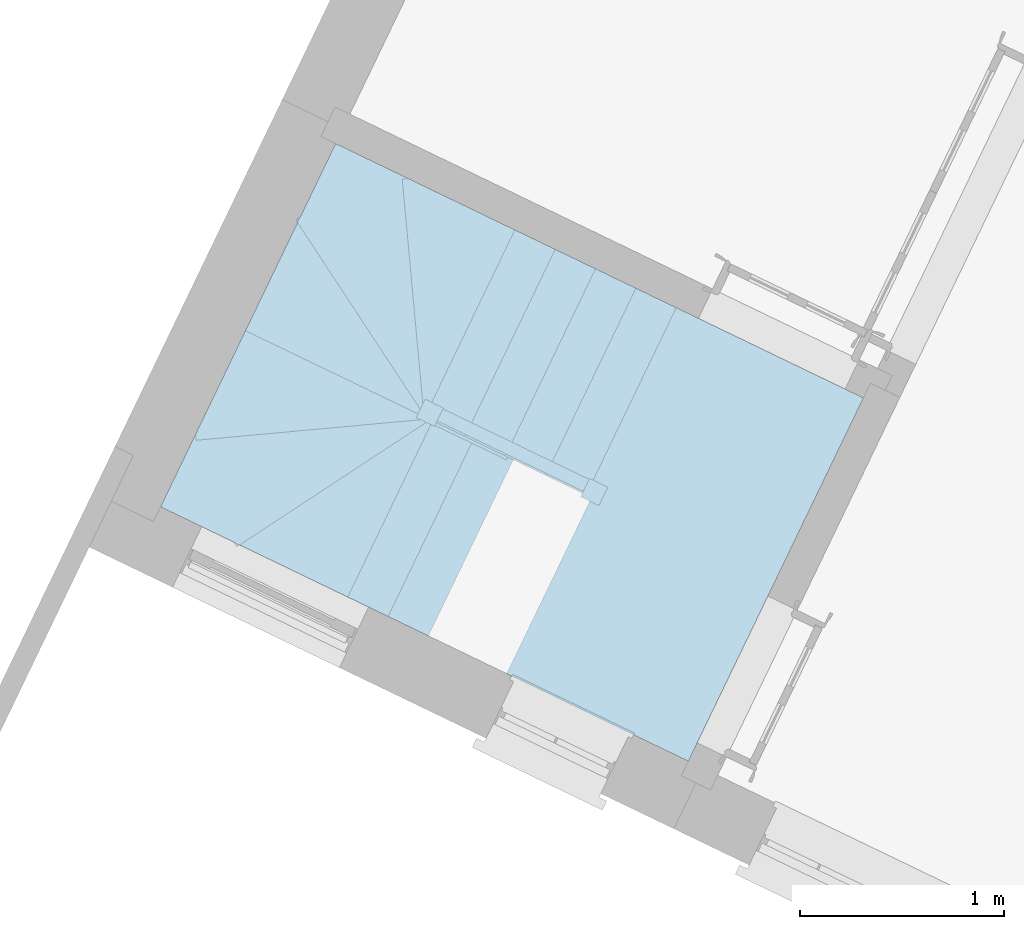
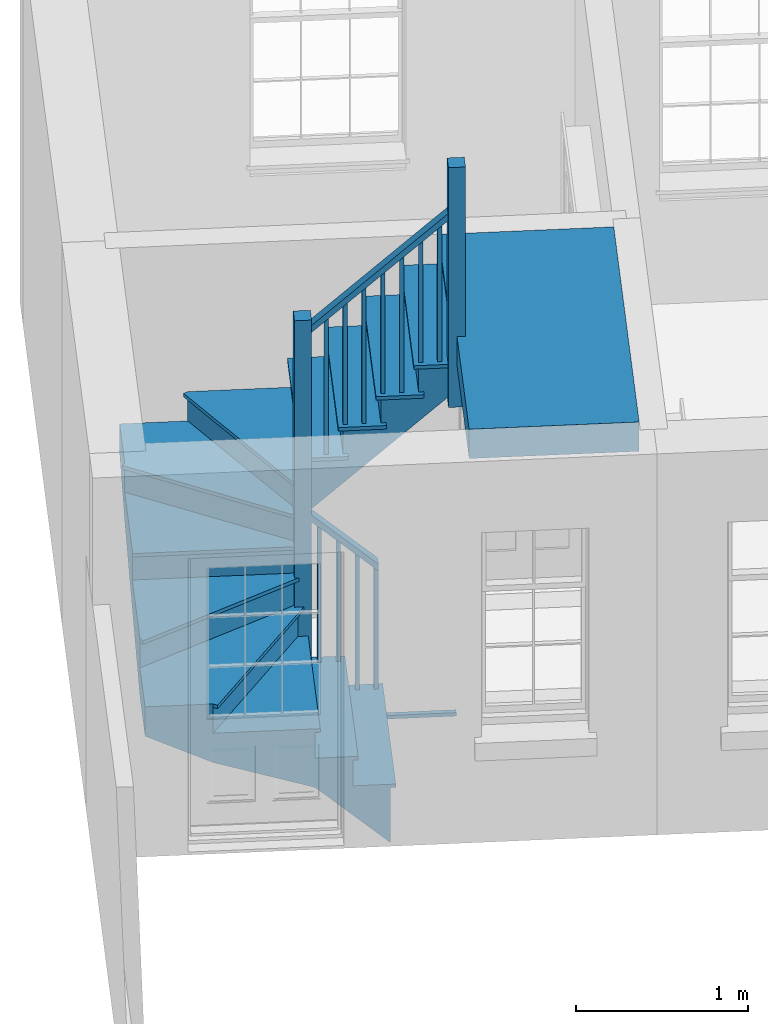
# One storey, part 5 of 5: 1 stair.
"""IFC4 building model written with IfcOpenShell, lengths in metres."""

from ifc_helpers import new_model, si_unit, frame, origin, origin_with_axes, place, context, subcontext, project, spatial, faceted_brep, element, save


model = new_model("IFC4")

# Units and contexts
model_context = context("Model", 3, world=origin_with_axes())
body_context = subcontext(model_context, "Body", "Model", "MODEL_VIEW")
ifc_project = project(units=[si_unit("PLANEANGLEUNIT", "RADIAN"), si_unit("MASSUNIT", "GRAM", prefix="KILO"), si_unit("FORCEUNIT", "NEWTON", prefix="KILO"), si_unit("LENGTHUNIT", "METRE"), si_unit("AREAUNIT", "SQUARE_METRE"), si_unit("VOLUMEUNIT", "CUBIC_METRE")], contexts=[model_context, model_context])

# Sites, building, storey
site_1_placement = place(None, origin_with_axes())
site_1 = spatial("IfcSite", under=ifc_project, at=site_1_placement, Name="Tamar")
site_2_placement = place(site_1_placement, origin_with_axes())
site_2 = spatial("IfcSite", under=site_1, at=site_2_placement, Name="Site plot-2", CompositionType="ELEMENT")
building_placement = place(None, origin_with_axes())
building = spatial("IfcBuilding", under=site_2, at=building_placement, Name="Building plot-2", CompositionType="ELEMENT")
storey_placement = place(None, frame((0.0, 0.0, 26.0), z_axis=(0.0, 0.0, 1.0), x_axis=(1.0, 0.0, 0.0)))
storey = spatial("IfcBuildingStorey", under=building, at=storey_placement, Name="plot-2 0", CompositionType="ELEMENT", Elevation=26.0)

# Stair
stair_placement = place(None, origin())
element("IfcStair", 1, at=stair_placement, inside=storey, Name="Stair", PredefinedType="NOTDEFINED", context=body_context, shape_type="Brep", body=[
    faceted_brep([(229.954053, 291.419393, 28.492308), (230.38407, 292.311741, 28.492308), (230.185881, 292.407247, 28.492308), (229.755864, 291.514899, 28.492308), (229.755864, 291.514899, 28.076923), (230.185881, 292.407247, 28.076923), (230.38407, 292.311741, 28.284615), (229.954053, 291.419393, 28.284615)], [[[0, 1, 2, 3]], [[4, 5, 6, 7]], [[7, 6, 1, 0]], [[1, 6, 5, 2]], [[5, 4, 3, 2]], [[3, 4, 7, 0]]]),
    faceted_brep([(230.158856, 292.420271, 28.467308), (230.158856, 292.420271, 28.492308), (230.185881, 292.407247, 28.467308), (230.411095, 292.298718, 28.492308), (230.411095, 292.298718, 28.467308), (230.38407, 292.311741, 28.467308), (230.185881, 292.407247, 28.492308), (230.38407, 292.311741, 28.492308), (229.715815, 291.500897, 28.492308), (229.755864, 291.514899, 28.492308), (229.755864, 291.514899, 28.467308), (229.715815, 291.500897, 28.467308), (229.968055, 291.379344, 28.492308), (229.954053, 291.419393, 28.492308), (229.954053, 291.419393, 28.467308), (229.968055, 291.379344, 28.467308)], [[[0, 1, 2]], [[3, 4, 5]], [[2, 1, 6]], [[3, 5, 7]], [[6, 1, 8, 9]], [[2, 6, 9, 10]], [[0, 2, 10, 11]], [[1, 0, 11, 8]], [[9, 8, 12, 13]], [[10, 9, 13, 14]], [[11, 10, 14, 15]], [[8, 11, 15, 12]], [[13, 12, 3, 7]], [[14, 13, 7, 5]], [[15, 14, 5, 4]], [[12, 15, 4, 3]]]),
    faceted_brep([(229.755864, 291.514899, 29.392308), (229.778386, 291.504046, 29.392308), (229.789239, 291.526568, 29.392308), (229.766717, 291.537421, 29.392308), (229.766717, 291.537421, 28.492308), (229.789239, 291.526568, 28.492308), (229.778386, 291.504046, 28.492308), (229.755864, 291.514899, 28.492308)], [[[0, 1, 2, 3]], [[4, 5, 6, 7]], [[7, 6, 1, 0]], [[6, 5, 2, 1]], [[5, 4, 3, 2]], [[4, 7, 0, 3]]]),
    faceted_brep([(229.854958, 291.467146, 29.496154), (229.87748, 291.456293, 29.496154), (229.888333, 291.478815, 29.496154), (229.865811, 291.489668, 29.496154), (229.865811, 291.489668, 28.492308), (229.888333, 291.478815, 28.492308), (229.87748, 291.456293, 28.492308), (229.854958, 291.467146, 28.492308)], [[[0, 1, 2, 3]], [[4, 5, 6, 7]], [[7, 6, 1, 0]], [[6, 5, 2, 1]], [[5, 4, 3, 2]], [[4, 7, 0, 3]]]),
    faceted_brep([(229.7754, 291.555438, 29.342308), (229.747182, 291.496882, 29.342308), (229.747182, 291.496882, 29.392308), (229.7754, 291.555438, 29.392308), (229.94537, 291.401376, 29.55), (229.973588, 291.459932, 29.55), (229.973588, 291.459932, 29.6), (229.94537, 291.401376, 29.6)], [[[0, 1, 2, 3]], [[4, 5, 6, 7]], [[0, 5, 4, 1]], [[3, 2, 7, 6]], [[0, 3, 6, 5]], [[2, 1, 4, 7]]]),
    faceted_brep([(229.755864, 291.514899, 28.284615), (230.185881, 292.407247, 28.284615), (229.987693, 292.502753, 28.284615), (229.557676, 291.610405, 28.284615), (229.557676, 291.610405, 27.869231), (229.987693, 292.502753, 27.869231), (230.185881, 292.407247, 28.076923), (229.755864, 291.514899, 28.076923)], [[[0, 1, 2, 3]], [[4, 5, 6, 7]], [[7, 6, 1, 0]], [[1, 6, 5, 2]], [[5, 4, 3, 2]], [[3, 4, 7, 0]]]),
    faceted_brep([(229.987693, 292.502753, 28.259615), (229.960667, 292.515776, 28.259615), (229.987693, 292.502753, 28.284615), (230.212907, 292.394224, 28.259615), (230.185881, 292.407247, 28.259615), (230.185881, 292.407247, 28.284615), (229.960667, 292.515776, 28.284615), (230.212907, 292.394224, 28.284615), (229.517627, 291.596403, 28.284615), (229.557676, 291.610405, 28.284615), (229.557676, 291.610405, 28.259615), (229.517627, 291.596403, 28.259615), (229.769866, 291.47485, 28.284615), (229.755864, 291.514899, 28.284615), (229.755864, 291.514899, 28.259615), (229.769866, 291.47485, 28.259615)], [[[0, 1, 2]], [[3, 4, 5]], [[1, 6, 2]], [[7, 3, 5]], [[2, 6, 8, 9]], [[0, 2, 9, 10]], [[1, 0, 10, 11]], [[6, 1, 11, 8]], [[9, 8, 12, 13]], [[10, 9, 13, 14]], [[11, 10, 14, 15]], [[8, 11, 15, 12]], [[13, 12, 7, 5]], [[14, 13, 5, 4]], [[15, 14, 4, 3]], [[12, 15, 3, 7]]]),
    faceted_brep([(229.557676, 291.610405, 29.184615), (229.580197, 291.599552, 29.184615), (229.59105, 291.622074, 29.184615), (229.568529, 291.632927, 29.184615), (229.568529, 291.632927, 28.284615), (229.59105, 291.622074, 28.284615), (229.580197, 291.599552, 28.284615), (229.557676, 291.610405, 28.284615)], [[[0, 1, 2, 3]], [[4, 5, 6, 7]], [[7, 6, 1, 0]], [[6, 5, 2, 1]], [[5, 4, 3, 2]], [[4, 7, 0, 3]]]),
    faceted_brep([(229.65677, 291.562652, 29.288462), (229.679291, 291.551799, 29.288462), (229.690144, 291.574321, 29.288462), (229.667623, 291.585174, 29.288462), (229.667623, 291.585174, 28.284615), (229.690144, 291.574321, 28.284615), (229.679291, 291.551799, 28.284615), (229.65677, 291.562652, 28.284615)], [[[0, 1, 2, 3]], [[4, 5, 6, 7]], [[7, 6, 1, 0]], [[6, 5, 2, 1]], [[5, 4, 3, 2]], [[4, 7, 0, 3]]]),
    faceted_brep([(229.577211, 291.650944, 29.134615), (229.548993, 291.592388, 29.134615), (229.548993, 291.592388, 29.184615), (229.577211, 291.650944, 29.184615), (229.747182, 291.496882, 29.342308), (229.7754, 291.555438, 29.342308), (229.7754, 291.555438, 29.392308), (229.747182, 291.496882, 29.392308)], [[[0, 1, 2, 3]], [[4, 5, 6, 7]], [[0, 5, 4, 1]], [[3, 2, 7, 6]], [[0, 3, 6, 5]], [[2, 1, 4, 7]]]),
    faceted_brep([(229.557676, 291.610405, 28.076923), (229.987693, 292.502753, 28.076923), (229.789505, 292.598259, 28.076923), (229.359487, 291.705911, 28.076923), (229.359487, 291.705911, 27.661538), (229.789505, 292.598259, 27.661538), (229.987693, 292.502753, 27.869231), (229.557676, 291.610405, 27.869231)], [[[0, 1, 2, 3]], [[4, 5, 6, 7]], [[7, 6, 1, 0]], [[1, 6, 5, 2]], [[5, 4, 3, 2]], [[3, 4, 7, 0]]]),
    faceted_brep([(229.789505, 292.598259, 28.051923), (229.762479, 292.611282, 28.051923), (229.789505, 292.598259, 28.076923), (230.014719, 292.489729, 28.051923), (229.987693, 292.502753, 28.051923), (229.987693, 292.502753, 28.076923), (229.762479, 292.611282, 28.076923), (230.014719, 292.489729, 28.076923), (229.319438, 291.691909, 28.076923), (229.359487, 291.705911, 28.076923), (229.359487, 291.705911, 28.051923), (229.319438, 291.691909, 28.051923), (229.571678, 291.570356, 28.076923), (229.557676, 291.610405, 28.076923), (229.557676, 291.610405, 28.051923), (229.571678, 291.570356, 28.051923)], [[[0, 1, 2]], [[3, 4, 5]], [[1, 6, 2]], [[7, 3, 5]], [[2, 6, 8, 9]], [[0, 2, 9, 10]], [[1, 0, 10, 11]], [[6, 1, 11, 8]], [[9, 8, 12, 13]], [[10, 9, 13, 14]], [[11, 10, 14, 15]], [[8, 11, 15, 12]], [[13, 12, 7, 5]], [[14, 13, 5, 4]], [[15, 14, 4, 3]], [[12, 15, 3, 7]]]),
    faceted_brep([(229.359487, 291.705911, 28.976923), (229.382009, 291.695058, 28.976923), (229.392862, 291.717579, 28.976923), (229.37034, 291.728432, 28.976923), (229.37034, 291.728432, 28.076923), (229.392862, 291.717579, 28.076923), (229.382009, 291.695058, 28.076923), (229.359487, 291.705911, 28.076923)], [[[0, 1, 2, 3]], [[4, 5, 6, 7]], [[7, 6, 1, 0]], [[6, 5, 2, 1]], [[5, 4, 3, 2]], [[4, 7, 0, 3]]]),
    faceted_brep([(229.458582, 291.658158, 29.080769), (229.481103, 291.647305, 29.080769), (229.491956, 291.669827, 29.080769), (229.469435, 291.680679, 29.080769), (229.469435, 291.680679, 28.076923), (229.491956, 291.669827, 28.076923), (229.481103, 291.647305, 28.076923), (229.458582, 291.658158, 28.076923)], [[[0, 1, 2, 3]], [[4, 5, 6, 7]], [[7, 6, 1, 0]], [[6, 5, 2, 1]], [[5, 4, 3, 2]], [[4, 7, 0, 3]]]),
    faceted_brep([(229.379023, 291.746449, 28.926923), (229.350805, 291.687894, 28.926923), (229.350805, 291.687894, 28.976923), (229.379023, 291.746449, 28.976923), (229.548993, 291.592388, 29.134615), (229.577211, 291.650944, 29.134615), (229.577211, 291.650944, 29.184615), (229.548993, 291.592388, 29.184615)], [[[0, 1, 2, 3]], [[4, 5, 6, 7]], [[0, 5, 4, 1]], [[3, 2, 7, 6]], [[0, 3, 6, 5]], [[2, 1, 4, 7]]]),
    faceted_brep([(229.359487, 291.705911, 27.869231), (229.789505, 292.598259, 27.869231), (229.591316, 292.693765, 27.869231), (229.161299, 291.801417, 27.869231), (229.161299, 291.801417, 27.453846), (229.591316, 292.693765, 27.453846), (229.789505, 292.598259, 27.661538), (229.359487, 291.705911, 27.661538)], [[[0, 1, 2, 3]], [[4, 5, 6, 7]], [[7, 6, 1, 0]], [[1, 6, 5, 2]], [[5, 4, 3, 2]], [[3, 4, 7, 0]]]),
    faceted_brep([(229.564291, 292.706788, 27.844231), (229.564291, 292.706788, 27.869231), (229.591316, 292.693765, 27.844231), (229.81653, 292.585235, 27.869231), (229.81653, 292.585235, 27.844231), (229.789505, 292.598259, 27.844231), (229.591316, 292.693765, 27.869231), (229.789505, 292.598259, 27.869231), (229.12125, 291.787415, 27.869231), (229.161299, 291.801417, 27.869231), (229.161299, 291.801417, 27.844231), (229.12125, 291.787415, 27.844231), (229.37349, 291.665862, 27.869231), (229.359487, 291.705911, 27.869231), (229.359487, 291.705911, 27.844231), (229.37349, 291.665862, 27.844231)], [[[0, 1, 2]], [[3, 4, 5]], [[2, 1, 6]], [[3, 5, 7]], [[6, 1, 8, 9]], [[2, 6, 9, 10]], [[0, 2, 10, 11]], [[1, 0, 11, 8]], [[9, 8, 12, 13]], [[10, 9, 13, 14]], [[11, 10, 14, 15]], [[8, 11, 15, 12]], [[13, 12, 3, 7]], [[14, 13, 7, 5]], [[15, 14, 5, 4]], [[12, 15, 4, 3]]]),
    faceted_brep([(229.161299, 291.801417, 28.769231), (229.18382, 291.790564, 28.769231), (229.194673, 291.813085, 28.769231), (229.172152, 291.823938, 28.769231), (229.172152, 291.823938, 27.869231), (229.194673, 291.813085, 27.869231), (229.18382, 291.790564, 27.869231), (229.161299, 291.801417, 27.869231)], [[[0, 1, 2, 3]], [[4, 5, 6, 7]], [[7, 6, 1, 0]], [[6, 5, 2, 1]], [[5, 4, 3, 2]], [[4, 7, 0, 3]]]),
    faceted_brep([(229.260393, 291.753664, 28.873077), (229.282915, 291.742811, 28.873077), (229.293768, 291.765332, 28.873077), (229.271246, 291.776185, 28.873077), (229.271246, 291.776185, 27.869231), (229.293768, 291.765332, 27.869231), (229.282915, 291.742811, 27.869231), (229.260393, 291.753664, 27.869231)], [[[0, 1, 2, 3]], [[4, 5, 6, 7]], [[7, 6, 1, 0]], [[6, 5, 2, 1]], [[5, 4, 3, 2]], [[4, 7, 0, 3]]]),
    faceted_brep([(229.180834, 291.841955, 28.719231), (229.152617, 291.7834, 28.719231), (229.152617, 291.7834, 28.769231), (229.180834, 291.841955, 28.769231), (229.350805, 291.687894, 28.926923), (229.379023, 291.746449, 28.926923), (229.379023, 291.746449, 28.976923), (229.350805, 291.687894, 28.976923)], [[[0, 1, 2, 3]], [[4, 5, 6, 7]], [[0, 5, 4, 1]], [[3, 2, 7, 6]], [[0, 3, 6, 5]], [[2, 1, 4, 7]]]),
    faceted_brep([(229.161299, 291.801417, 27.661538), (229.591316, 292.693765, 27.661538), (229.576412, 292.700947, 27.661538), (229.146395, 291.808599, 27.661538), (229.146395, 291.808599, 27.453846), (229.576412, 292.700947, 27.453846), (229.591316, 292.693765, 27.453846), (229.161299, 291.801417, 27.453846)], [[[0, 1, 2, 3]], [[4, 5, 6, 7]], [[7, 6, 1, 0]], [[6, 5, 2, 1]], [[5, 4, 3, 2]], [[4, 7, 0, 3]]]),
    faceted_brep([(229.146395, 291.808599, 27.636538), (229.133372, 291.781573, 27.636538), (229.146395, 291.808599, 27.661538), (229.148276, 291.774391, 27.636538), (229.161299, 291.801417, 27.636538), (229.161299, 291.801417, 27.661538), (229.133372, 291.781573, 27.661538), (229.148276, 291.774391, 27.661538)], [[[0, 1, 2]], [[3, 4, 5]], [[1, 6, 2]], [[7, 3, 5]], [[2, 6, 7, 5]], [[0, 2, 5, 4]], [[1, 0, 4, 3]], [[6, 1, 3, 7]]]),
    faceted_brep([(229.079646, 291.785262, 28.861538), (229.169732, 291.74185, 28.861538), (229.213144, 291.831936, 28.861538), (229.123058, 291.875348, 28.861538), (229.123058, 291.875348, 27.661538), (229.213144, 291.831936, 27.661538), (229.169732, 291.74185, 27.661538), (229.079646, 291.785262, 27.661538)], [[[0, 1, 2, 3]], [[4, 5, 6, 7]], [[7, 6, 1, 0]], [[6, 5, 2, 1]], [[5, 4, 3, 2]], [[4, 7, 0, 3]]]),
    faceted_brep([(229.576412, 292.700947, 27.661538), (229.041004, 292.958957, 27.661538), (229.146395, 291.808599, 27.661538), (229.146395, 291.808599, 27.246154), (229.041004, 292.958957, 27.246154), (229.576412, 292.700947, 27.453846)], [[[0, 1, 2]], [[3, 4, 5]], [[0, 5, 4, 1]], [[4, 3, 2, 1]], [[2, 3, 5, 0]]]),
    faceted_brep([(229.011129, 292.95622, 27.636538), (229.011129, 292.95622, 27.661538), (229.041004, 292.958957, 27.636538), (229.11652, 291.805862, 27.661538), (229.11652, 291.805862, 27.636538), (229.146395, 291.808599, 27.636538), (229.041004, 292.958957, 27.661538), (229.146395, 291.808599, 27.661538)], [[[0, 1, 2]], [[3, 4, 5]], [[2, 1, 6]], [[3, 5, 7]], [[6, 1, 3, 7]], [[2, 6, 7, 5]], [[0, 2, 5, 4]], [[1, 0, 4, 3]]]),
    faceted_brep([(229.041004, 292.958957, 27.453846), (228.684064, 293.130964, 27.453846), (228.512058, 292.774025, 27.453846), (229.146395, 291.808599, 27.453846), (229.146395, 291.808599, 27.038462), (228.512058, 292.774025, 27.038462), (228.684064, 293.130964, 27.246154), (229.041004, 292.958957, 27.246154)], [[[0, 1, 2, 3]], [[4, 5, 6, 7]], [[7, 6, 1, 0]], [[1, 6, 5, 2]], [[5, 4, 3, 2]], [[3, 4, 7, 0]]]),
    faceted_brep([(228.486985, 292.757551, 27.428846), (228.486985, 292.757551, 27.453846), (228.512058, 292.774025, 27.428846), (229.121323, 291.792125, 27.453846), (229.121323, 291.792125, 27.428846), (229.146395, 291.808599, 27.428846), (228.512058, 292.774025, 27.453846), (229.146395, 291.808599, 27.453846)], [[[0, 1, 2]], [[3, 4, 5]], [[2, 1, 6]], [[3, 5, 7]], [[6, 1, 3, 7]], [[2, 6, 7, 5]], [[0, 2, 5, 4]], [[1, 0, 4, 3]]]),
    faceted_brep([(228.512058, 292.774025, 27.246154), (228.254047, 292.238616, 27.246154), (229.146395, 291.808599, 27.246154), (229.146395, 291.808599, 26.830769), (228.254047, 292.238616, 26.830769), (228.512058, 292.774025, 27.038462)], [[[0, 1, 2]], [[3, 4, 5]], [[0, 5, 4, 1]], [[4, 3, 2, 1]], [[2, 3, 5, 0]]]),
    faceted_brep([(228.241024, 292.21159, 27.221154), (228.241024, 292.21159, 27.246154), (228.254047, 292.238616, 27.221154), (229.133372, 291.781573, 27.246154), (229.133372, 291.781573, 27.221154), (229.146395, 291.808599, 27.221154), (228.254047, 292.238616, 27.246154), (229.146395, 291.808599, 27.246154)], [[[0, 1, 2]], [[3, 4, 5]], [[2, 1, 6]], [[3, 5, 7]], [[6, 1, 3, 7]], [[2, 6, 7, 5]], [[0, 2, 5, 4]], [[1, 0, 4, 3]]]),
    faceted_brep([(229.079646, 291.785262, 27.661538), (229.169732, 291.74185, 27.661538), (229.213144, 291.831936, 27.661538), (229.123058, 291.875348, 27.661538), (229.123058, 291.875348, 26.746154), (229.213144, 291.831936, 26.746154), (229.169732, 291.74185, 26.746154), (229.079646, 291.785262, 26.746154)], [[[0, 1, 2, 3]], [[4, 5, 6, 7]], [[7, 6, 1, 0]], [[6, 5, 2, 1]], [[5, 4, 3, 2]], [[4, 7, 0, 3]]]),
    faceted_brep([(229.146395, 291.808599, 26.830769), (228.254047, 292.238616, 26.830769), (228.254047, 292.238616, 27.038462), (229.146395, 291.808599, 27.038462)], [[[0, 1, 2, 3]], [[1, 0, 3, 2]]]),
    faceted_brep([(229.146395, 291.808599, 27.013462), (229.176395, 291.808599, 27.013462), (229.146395, 291.808599, 27.038462), (229.176395, 291.808599, 27.038462)], [[[0, 1, 2]], [[1, 0, 2]], [[1, 3, 2]], [[3, 1, 2]]]),
    faceted_brep([(229.169732, 291.74185, 28.238462), (229.213144, 291.831936, 28.238462), (229.123058, 291.875348, 28.238462), (229.079646, 291.785262, 28.238462), (229.079646, 291.785262, 27.038462), (229.123058, 291.875348, 27.038462), (229.213144, 291.831936, 27.038462), (229.169732, 291.74185, 27.038462)], [[[0, 1, 2, 3]], [[4, 5, 6, 7]], [[7, 6, 1, 0]], [[6, 5, 2, 1]], [[5, 4, 3, 2]], [[4, 7, 0, 3]]]),
    faceted_brep([(228.254047, 292.238616, 27.038462), (227.996037, 291.703207, 27.038462), (229.146395, 291.808599, 27.038462), (229.146395, 291.808599, 26.623077), (227.996037, 291.703207, 26.623077), (228.254047, 292.238616, 26.830769)], [[[0, 1, 2]], [[3, 4, 5]], [[0, 5, 4, 1]], [[4, 3, 2, 1]], [[2, 3, 5, 0]]]),
    faceted_brep([(227.996037, 291.703207, 27.013462), (227.998774, 291.673333, 27.013462), (227.996037, 291.703207, 27.038462), (229.149132, 291.778724, 27.013462), (229.146395, 291.808599, 27.013462), (229.146395, 291.808599, 27.038462), (227.998774, 291.673333, 27.038462), (229.149132, 291.778724, 27.038462)], [[[0, 1, 2]], [[3, 4, 5]], [[1, 6, 2]], [[7, 3, 5]], [[2, 6, 7, 5]], [[0, 2, 5, 4]], [[1, 0, 4, 3]], [[6, 1, 3, 7]]]),
    faceted_brep([(227.996037, 291.703207, 26.830769), (227.82403, 291.346268, 26.830769), (228.180969, 291.174261, 26.830769), (229.146395, 291.808599, 26.830769), (229.146395, 291.808599, 26.415385), (228.180969, 291.174261, 26.415385), (227.82403, 291.346268, 26.623077), (227.996037, 291.703207, 26.623077)], [[[0, 1, 2, 3]], [[4, 5, 6, 7]], [[7, 6, 1, 0]], [[1, 6, 5, 2]], [[5, 4, 3, 2]], [[3, 4, 7, 0]]]),
    faceted_brep([(228.197443, 291.149189, 26.805769), (228.197443, 291.149189, 26.830769), (228.180969, 291.174261, 26.805769), (229.162869, 291.783527, 26.830769), (229.162869, 291.783527, 26.805769), (229.146395, 291.808599, 26.805769), (228.180969, 291.174261, 26.830769), (229.146395, 291.808599, 26.830769)], [[[0, 1, 2]], [[3, 4, 5]], [[2, 1, 6]], [[3, 5, 7]], [[6, 1, 3, 7]], [[2, 6, 7, 5]], [[0, 2, 5, 4]], [[1, 0, 4, 3]]]),
    faceted_brep([(228.180969, 291.174261, 26.623077), (228.716378, 290.916251, 26.623077), (229.146395, 291.808599, 26.623077), (229.146395, 291.808599, 26.207692), (228.716378, 290.916251, 26.207692), (228.180969, 291.174261, 26.415385)], [[[0, 1, 2]], [[3, 4, 5]], [[0, 5, 4, 1]], [[4, 3, 2, 1]], [[2, 3, 5, 0]]]),
    faceted_brep([(228.716378, 290.916251, 26.598077), (228.743404, 290.903228, 26.598077), (228.716378, 290.916251, 26.623077), (229.173421, 291.795575, 26.598077), (229.146395, 291.808599, 26.598077), (229.146395, 291.808599, 26.623077), (228.743404, 290.903228, 26.623077), (229.173421, 291.795575, 26.623077)], [[[0, 1, 2]], [[3, 4, 5]], [[1, 6, 2]], [[7, 3, 5]], [[2, 6, 7, 5]], [[0, 2, 5, 4]], [[1, 0, 4, 3]], [[6, 1, 3, 7]]]),
    faceted_brep([(229.169732, 291.74185, 27.038462), (229.213144, 291.831936, 27.038462), (229.123058, 291.875348, 27.038462), (229.079646, 291.785262, 27.038462), (229.079646, 291.785262, 26.123077), (229.123058, 291.875348, 26.123077), (229.213144, 291.831936, 26.123077), (229.169732, 291.74185, 26.123077)], [[[0, 1, 2, 3]], [[4, 5, 6, 7]], [[7, 6, 1, 0]], [[6, 5, 2, 1]], [[5, 4, 3, 2]], [[4, 7, 0, 3]]]),
    faceted_brep([(229.146395, 291.808599, 26.415385), (228.716378, 290.916251, 26.415385), (228.914566, 290.820745, 26.415385), (229.344583, 291.713093, 26.415385), (229.344583, 291.713093, 26.0), (228.914566, 290.820745, 26.0), (228.716378, 290.916251, 26.207692), (229.146395, 291.808599, 26.207692)], [[[0, 1, 2, 3]], [[4, 5, 6, 7]], [[7, 6, 1, 0]], [[1, 6, 5, 2]], [[5, 4, 3, 2]], [[3, 4, 7, 0]]]),
    faceted_brep([(228.914566, 290.820745, 26.390385), (228.941592, 290.807722, 26.390385), (228.914566, 290.820745, 26.415385), (228.689352, 290.929275, 26.390385), (228.716378, 290.916251, 26.390385), (228.716378, 290.916251, 26.415385), (228.941592, 290.807722, 26.415385), (228.689352, 290.929275, 26.415385), (229.384633, 291.727095, 26.415385), (229.344583, 291.713093, 26.415385), (229.344583, 291.713093, 26.390385), (229.384633, 291.727095, 26.390385), (229.132393, 291.848648, 26.415385), (229.146395, 291.808599, 26.415385), (229.146395, 291.808599, 26.390385), (229.132393, 291.848648, 26.390385)], [[[0, 1, 2]], [[3, 4, 5]], [[1, 6, 2]], [[7, 3, 5]], [[2, 6, 8, 9]], [[0, 2, 9, 10]], [[1, 0, 10, 11]], [[6, 1, 11, 8]], [[9, 8, 12, 13]], [[10, 9, 13, 14]], [[11, 10, 14, 15]], [[8, 11, 15, 12]], [[13, 12, 7, 5]], [[14, 13, 5, 4]], [[15, 14, 4, 3]], [[12, 15, 3, 7]]]),
    faceted_brep([(229.344583, 291.713093, 27.315385), (229.322062, 291.723946, 27.315385), (229.311209, 291.701425, 27.315385), (229.333731, 291.690572, 27.315385), (229.333731, 291.690572, 26.415385), (229.311209, 291.701425, 26.415385), (229.322062, 291.723946, 26.415385), (229.344583, 291.713093, 26.415385)], [[[0, 1, 2, 3]], [[4, 5, 6, 7]], [[7, 6, 1, 0]], [[6, 5, 2, 1]], [[5, 4, 3, 2]], [[4, 7, 0, 3]]]),
    faceted_brep([(229.245489, 291.760846, 27.419231), (229.222968, 291.771699, 27.419231), (229.212115, 291.749178, 27.419231), (229.234636, 291.738325, 27.419231), (229.234636, 291.738325, 26.415385), (229.212115, 291.749178, 26.415385), (229.222968, 291.771699, 26.415385), (229.245489, 291.760846, 26.415385)], [[[0, 1, 2, 3]], [[4, 5, 6, 7]], [[7, 6, 1, 0]], [[6, 5, 2, 1]], [[5, 4, 3, 2]], [[4, 7, 0, 3]]]),
    faceted_brep([(229.325048, 291.672555, 27.265385), (229.353266, 291.73111, 27.265385), (229.353266, 291.73111, 27.315385), (229.325048, 291.672555, 27.315385), (229.155077, 291.826616, 27.473077), (229.12686, 291.76806, 27.473077), (229.12686, 291.76806, 27.523077), (229.155077, 291.826616, 27.523077)], [[[0, 1, 2, 3]], [[4, 5, 6, 7]], [[0, 5, 4, 1]], [[3, 2, 7, 6]], [[0, 3, 6, 5]], [[2, 1, 4, 7]]]),
    faceted_brep([(229.344583, 291.713093, 26.207692), (228.914566, 290.820745, 26.207692), (229.112755, 290.72524, 26.207692), (229.542772, 291.617587, 26.207692), (229.542772, 291.617587, 25.792308), (229.112755, 290.72524, 25.792308), (228.914566, 290.820745, 26.0), (229.344583, 291.713093, 26.0)], [[[0, 1, 2, 3]], [[4, 5, 6, 7]], [[7, 6, 1, 0]], [[1, 6, 5, 2]], [[5, 4, 3, 2]], [[3, 4, 7, 0]]]),
    faceted_brep([(229.112755, 290.72524, 26.182692), (229.13978, 290.712216, 26.182692), (229.112755, 290.72524, 26.207692), (228.887541, 290.833769, 26.182692), (228.914566, 290.820745, 26.182692), (228.914566, 290.820745, 26.207692), (229.13978, 290.712216, 26.207692), (228.887541, 290.833769, 26.207692), (229.582821, 291.631589, 26.207692), (229.542772, 291.617587, 26.207692), (229.542772, 291.617587, 26.182692), (229.582821, 291.631589, 26.182692), (229.330581, 291.753142, 26.207692), (229.344583, 291.713093, 26.207692), (229.344583, 291.713093, 26.182692), (229.330581, 291.753142, 26.182692)], [[[0, 1, 2]], [[3, 4, 5]], [[1, 6, 2]], [[7, 3, 5]], [[2, 6, 8, 9]], [[0, 2, 9, 10]], [[1, 0, 10, 11]], [[6, 1, 11, 8]], [[9, 8, 12, 13]], [[10, 9, 13, 14]], [[11, 10, 14, 15]], [[8, 11, 15, 12]], [[13, 12, 7, 5]], [[14, 13, 5, 4]], [[15, 14, 4, 3]], [[12, 15, 3, 7]]]),
    faceted_brep([(229.542772, 291.617587, 27.107692), (229.52025, 291.62844, 27.107692), (229.509398, 291.605919, 27.107692), (229.531919, 291.595066, 27.107692), (229.531919, 291.595066, 26.207692), (229.509398, 291.605919, 26.207692), (229.52025, 291.62844, 26.207692), (229.542772, 291.617587, 26.207692)], [[[0, 1, 2, 3]], [[4, 5, 6, 7]], [[7, 6, 1, 0]], [[6, 5, 2, 1]], [[5, 4, 3, 2]], [[4, 7, 0, 3]]]),
    faceted_brep([(229.443678, 291.66534, 27.211538), (229.421156, 291.676193, 27.211538), (229.410303, 291.653672, 27.211538), (229.432825, 291.642819, 27.211538), (229.432825, 291.642819, 26.207692), (229.410303, 291.653672, 26.207692), (229.421156, 291.676193, 26.207692), (229.443678, 291.66534, 26.207692)], [[[0, 1, 2, 3]], [[4, 5, 6, 7]], [[7, 6, 1, 0]], [[6, 5, 2, 1]], [[5, 4, 3, 2]], [[4, 7, 0, 3]]]),
    faceted_brep([(229.523237, 291.577049, 27.057692), (229.551454, 291.635604, 27.057692), (229.551454, 291.635604, 27.107692), (229.523237, 291.577049, 27.107692), (229.353266, 291.73111, 27.265385), (229.325048, 291.672555, 27.265385), (229.325048, 291.672555, 27.315385), (229.353266, 291.73111, 27.315385)], [[[0, 1, 2, 3]], [[4, 5, 6, 7]], [[0, 5, 4, 1]], [[3, 2, 7, 6]], [[0, 3, 6, 5]], [[2, 1, 4, 7]]]),
    faceted_brep([(229.954053, 291.419393, 25.975), (229.967076, 291.446419, 25.975), (229.954053, 291.419393, 26.0), (229.555795, 291.644613, 25.975), (229.542772, 291.617587, 25.975), (229.542772, 291.617587, 26.0), (229.967076, 291.446419, 26.0), (229.555795, 291.644613, 26.0)], [[[0, 1, 2]], [[3, 4, 5]], [[1, 6, 2]], [[7, 3, 5]], [[2, 6, 7, 5]], [[0, 2, 5, 4]], [[1, 0, 4, 3]], [[6, 1, 3, 7]]]),
    faceted_brep([(230.020801, 291.44273, 29.9), (229.930716, 291.486142, 29.9), (229.887304, 291.396057, 29.9), (229.97739, 291.352645, 29.9), (229.97739, 291.352645, 28.7), (229.887304, 291.396057, 28.7), (229.930716, 291.486142, 28.7), (230.020801, 291.44273, 28.7)], [[[0, 1, 2, 3]], [[4, 5, 6, 7]], [[7, 6, 1, 0]], [[6, 5, 2, 1]], [[5, 4, 3, 2]], [[4, 7, 0, 3]]]),
    faceted_brep([(229.954053, 291.419393, 28.7), (229.524035, 290.527046, 28.7), (230.416383, 290.097029, 28.7), (230.8464, 290.989376, 28.7), (230.8464, 290.989376, 28.492308), (230.416383, 290.097029, 28.492308), (229.524035, 290.527046, 28.492308), (229.954053, 291.419393, 28.492308)], [[[0, 1, 2, 3]], [[4, 5, 6, 7]], [[7, 6, 1, 0]], [[6, 5, 2, 1]], [[5, 4, 3, 2]], [[4, 7, 0, 3]]]),
    faceted_brep([(230.859424, 291.016402, 28.675), (230.859424, 291.016402, 28.7), (230.8464, 290.989376, 28.675), (229.967076, 291.446419, 28.7), (229.967076, 291.446419, 28.675), (229.954053, 291.419393, 28.675), (230.8464, 290.989376, 28.7), (229.954053, 291.419393, 28.7)], [[[0, 1, 2]], [[3, 4, 5]], [[2, 1, 6]], [[3, 5, 7]], [[6, 1, 3, 7]], [[2, 6, 7, 5]], [[0, 2, 5, 4]], [[1, 0, 4, 3]]]),
    faceted_brep([(230.020801, 291.44273, 28.7), (229.930716, 291.486142, 28.7), (229.887304, 291.396057, 28.7), (229.97739, 291.352645, 28.7), (229.97739, 291.352645, 28.2), (229.887304, 291.396057, 28.2), (229.930716, 291.486142, 28.2), (230.020801, 291.44273, 28.2)], [[[0, 1, 2, 3]], [[4, 5, 6, 7]], [[7, 6, 1, 0]], [[6, 5, 2, 1]], [[5, 4, 3, 2]], [[4, 7, 0, 3]]]),
    faceted_brep([(229.954053, 291.419393, 28.492308), (230.8464, 290.989376, 28.492308), (230.8464, 290.989376, 28.7), (229.954053, 291.419393, 28.7)], [[[0, 1, 2, 3]], [[1, 0, 3, 2]]]),
    faceted_brep([(229.940636, 291.446226, 28.675), (229.940636, 291.446226, 28.7), (229.954053, 291.419393, 28.675), (229.954053, 291.419393, 28.7)], [[[0, 1, 2]], [[1, 0, 2]], [[2, 1, 3]], [[1, 2, 3]]]),
    faceted_brep([(229.930716, 291.486142, 29.9), (229.887304, 291.396057, 29.9), (229.97739, 291.352645, 29.9), (230.020801, 291.44273, 29.9), (230.020801, 291.44273, 28.7), (229.97739, 291.352645, 28.7), (229.887304, 291.396057, 28.7), (229.930716, 291.486142, 28.7)], [[[0, 1, 2, 3]], [[4, 5, 6, 7]], [[7, 6, 1, 0]], [[6, 5, 2, 1]], [[5, 4, 3, 2]], [[4, 7, 0, 3]]]),
    faceted_brep([(229.954053, 291.419393, 28.7), (230.8464, 290.989376, 28.7), (231.276418, 291.881724, 28.7), (230.38407, 292.311741, 28.7), (230.38407, 292.311741, 28.492308), (231.276418, 291.881724, 28.492308), (230.8464, 290.989376, 28.492308), (229.954053, 291.419393, 28.492308)], [[[0, 1, 2, 3]], [[4, 5, 6, 7]], [[7, 6, 1, 0]], [[6, 5, 2, 1]], [[5, 4, 3, 2]], [[4, 7, 0, 3]]]),
    faceted_brep([(230.38407, 292.311741, 28.675), (230.357044, 292.324765, 28.675), (230.38407, 292.311741, 28.7), (229.927027, 291.432417, 28.675), (229.954053, 291.419393, 28.675), (229.954053, 291.419393, 28.7), (230.357044, 292.324765, 28.7), (229.927027, 291.432417, 28.7)], [[[0, 1, 2]], [[3, 4, 5]], [[1, 6, 2]], [[7, 3, 5]], [[2, 6, 7, 5]], [[0, 2, 5, 4]], [[1, 0, 4, 3]], [[6, 1, 3, 7]]]),
    faceted_brep([(229.930716, 291.486142, 28.7), (229.887304, 291.396057, 28.7), (229.97739, 291.352645, 28.7), (230.020801, 291.44273, 28.7), (230.020801, 291.44273, 28.2), (229.97739, 291.352645, 28.2), (229.887304, 291.396057, 28.2), (229.930716, 291.486142, 28.2)], [[[0, 1, 2, 3]], [[4, 5, 6, 7]], [[7, 6, 1, 0]], [[6, 5, 2, 1]], [[5, 4, 3, 2]], [[4, 7, 0, 3]]]),
])

save(model, "model.ifc")
